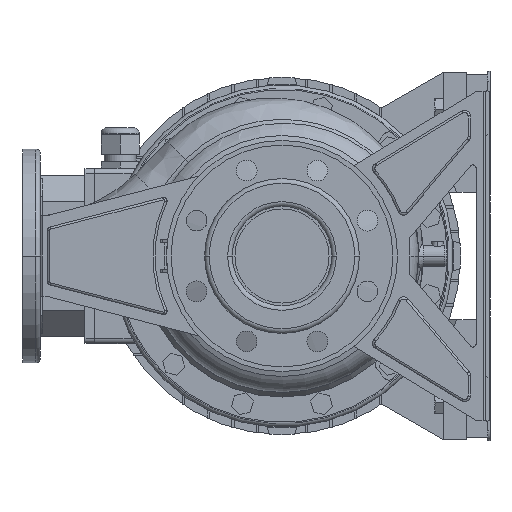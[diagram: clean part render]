
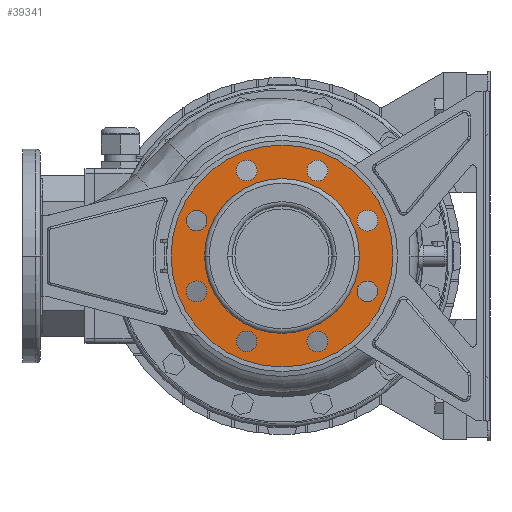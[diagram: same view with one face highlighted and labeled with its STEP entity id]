
A CAD part, left-side view. The second image highlights one B-rep face of the part: STEP entity #39341.
In plain terms, the highlighted planar face has unit normal (-1, 0, 0).
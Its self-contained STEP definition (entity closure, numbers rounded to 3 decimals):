
#38474=CARTESIAN_POINT('',(14.,0.,0.));
#38475=DIRECTION('',(-1.,0.,0.));
#38476=DIRECTION('',(0.,1.,0.));
#38477=AXIS2_PLACEMENT_3D('',#38474,#38475,#38476);
#38482=CARTESIAN_POINT('',(14.,0.,0.));
#38483=DIRECTION('',(1.,0.,0.));
#38484=DIRECTION('',(0.,1.,0.));
#38485=AXIS2_PLACEMENT_3D('',#38482,#38483,#38484);
#38490=CARTESIAN_POINT('',(14.,-73.91,30.615));
#38491=DIRECTION('',(1.,0.,0.));
#38492=DIRECTION('',(0.,1.,0.));
#38493=AXIS2_PLACEMENT_3D('',#38490,#38491,#38492);
#38498=CARTESIAN_POINT('',(14.,-73.91,30.615));
#38499=DIRECTION('',(1.,0.,0.));
#38500=DIRECTION('',(0.,-1.,0.));
#38501=AXIS2_PLACEMENT_3D('',#38498,#38499,#38500);
#38506=CARTESIAN_POINT('',(14.,-73.91,-30.615));
#38507=DIRECTION('',(1.,0.,0.));
#38508=DIRECTION('',(0.,0.707,0.707));
#38509=AXIS2_PLACEMENT_3D('',#38506,#38507,#38508);
#38514=CARTESIAN_POINT('',(14.,-73.91,-30.615));
#38515=DIRECTION('',(1.,0.,0.));
#38516=DIRECTION('',(0.,-0.707,-0.707));
#38517=AXIS2_PLACEMENT_3D('',#38514,#38515,#38516);
#38522=CARTESIAN_POINT('',(14.,-30.615,-73.91));
#38523=DIRECTION('',(1.,0.,0.));
#38524=DIRECTION('',(0.,0.,1.));
#38525=AXIS2_PLACEMENT_3D('',#38522,#38523,#38524);
#38530=CARTESIAN_POINT('',(14.,-30.615,-73.91));
#38531=DIRECTION('',(1.,0.,0.));
#38532=DIRECTION('',(0.,0.,-1.));
#38533=AXIS2_PLACEMENT_3D('',#38530,#38531,#38532);
#38538=CARTESIAN_POINT('',(14.,30.615,-73.91));
#38539=DIRECTION('',(1.,0.,0.));
#38540=DIRECTION('',(0.,-0.707,0.707));
#38541=AXIS2_PLACEMENT_3D('',#38538,#38539,#38540);
#38546=CARTESIAN_POINT('',(14.,30.615,-73.91));
#38547=DIRECTION('',(1.,0.,0.));
#38548=DIRECTION('',(0.,0.707,-0.707));
#38549=AXIS2_PLACEMENT_3D('',#38546,#38547,#38548);
#38554=CARTESIAN_POINT('',(14.,73.91,-30.615));
#38555=DIRECTION('',(1.,0.,0.));
#38556=DIRECTION('',(0.,-1.,0.));
#38557=AXIS2_PLACEMENT_3D('',#38554,#38555,#38556);
#38562=CARTESIAN_POINT('',(14.,73.91,-30.615));
#38563=DIRECTION('',(1.,0.,0.));
#38564=DIRECTION('',(0.,1.,0.));
#38565=AXIS2_PLACEMENT_3D('',#38562,#38563,#38564);
#38570=CARTESIAN_POINT('',(14.,73.91,30.615));
#38571=DIRECTION('',(1.,0.,0.));
#38572=DIRECTION('',(0.,-0.707,-0.707));
#38573=AXIS2_PLACEMENT_3D('',#38570,#38571,#38572);
#38578=CARTESIAN_POINT('',(14.,73.91,30.615));
#38579=DIRECTION('',(1.,0.,0.));
#38580=DIRECTION('',(0.,0.707,0.707));
#38581=AXIS2_PLACEMENT_3D('',#38578,#38579,#38580);
#38586=CARTESIAN_POINT('',(14.,30.615,73.91));
#38587=DIRECTION('',(1.,0.,0.));
#38588=DIRECTION('',(0.,0.,-1.));
#38589=AXIS2_PLACEMENT_3D('',#38586,#38587,#38588);
#38594=CARTESIAN_POINT('',(14.,30.615,73.91));
#38595=DIRECTION('',(1.,0.,0.));
#38596=DIRECTION('',(0.,0.,1.));
#38597=AXIS2_PLACEMENT_3D('',#38594,#38595,#38596);
#38602=CARTESIAN_POINT('',(14.,-30.615,73.91));
#38603=DIRECTION('',(1.,0.,0.));
#38604=DIRECTION('',(0.,0.707,-0.707));
#38605=AXIS2_PLACEMENT_3D('',#38602,#38603,#38604);
#38610=CARTESIAN_POINT('',(14.,-30.615,73.91));
#38611=DIRECTION('',(1.,0.,0.));
#38612=DIRECTION('',(0.,-0.707,0.707));
#38613=AXIS2_PLACEMENT_3D('',#38610,#38611,#38612);
#38618=CARTESIAN_POINT('',(14.,0.,0.));
#38619=DIRECTION('',(1.,0.,0.));
#38620=DIRECTION('',(0.,1.,0.));
#38621=AXIS2_PLACEMENT_3D('',#38618,#38619,#38620);
#38640=CARTESIAN_POINT('',(14.,0.,0.));
#38641=DIRECTION('',(-1.,0.,0.));
#38642=DIRECTION('',(0.,1.,0.));
#38643=AXIS2_PLACEMENT_3D('',#38640,#38641,#38642);
#38861=CARTESIAN_POINT('',(14.,96.,0.));
#38863=VERTEX_POINT('',#38861);
#38864=CARTESIAN_POINT('',(14.,67.,0.));
#38866=VERTEX_POINT('',#38864);
#38893=CARTESIAN_POINT('',(14.,-96.,0.));
#38895=VERTEX_POINT('',#38893);
#38896=CARTESIAN_POINT('',(14.,-67.,0.));
#38898=VERTEX_POINT('',#38896);
#38908=CARTESIAN_POINT('',(14.,-64.91,30.615));
#38909=CARTESIAN_POINT('',(14.,-82.91,30.615));
#38910=VERTEX_POINT('',#38908);
#38911=VERTEX_POINT('',#38909);
#38916=CARTESIAN_POINT('',(14.,-67.546,-24.251));
#38917=CARTESIAN_POINT('',(14.,-80.274,-36.979));
#38918=VERTEX_POINT('',#38916);
#38919=VERTEX_POINT('',#38917);
#38924=CARTESIAN_POINT('',(14.,-30.615,-64.91));
#38925=CARTESIAN_POINT('',(14.,-30.615,-82.91));
#38926=VERTEX_POINT('',#38924);
#38927=VERTEX_POINT('',#38925);
#38932=CARTESIAN_POINT('',(14.,24.251,-67.546));
#38933=CARTESIAN_POINT('',(14.,36.979,-80.274));
#38934=VERTEX_POINT('',#38932);
#38935=VERTEX_POINT('',#38933);
#38940=CARTESIAN_POINT('',(14.,64.91,-30.615));
#38941=CARTESIAN_POINT('',(14.,82.91,-30.615));
#38942=VERTEX_POINT('',#38940);
#38943=VERTEX_POINT('',#38941);
#38948=CARTESIAN_POINT('',(14.,67.546,24.251));
#38949=CARTESIAN_POINT('',(14.,80.274,36.979));
#38950=VERTEX_POINT('',#38948);
#38951=VERTEX_POINT('',#38949);
#38956=CARTESIAN_POINT('',(14.,30.615,64.91));
#38957=CARTESIAN_POINT('',(14.,30.615,82.91));
#38958=VERTEX_POINT('',#38956);
#38959=VERTEX_POINT('',#38957);
#38964=CARTESIAN_POINT('',(14.,-24.251,67.546));
#38965=CARTESIAN_POINT('',(14.,-36.979,80.274));
#38966=VERTEX_POINT('',#38964);
#38967=VERTEX_POINT('',#38965);
#39278=CARTESIAN_POINT('',(14.,0.,0.));
#39279=DIRECTION('',(1.,0.,0.));
#39280=DIRECTION('',(0.,-1.,0.));
#39281=AXIS2_PLACEMENT_3D('',#39278,#39279,#39280);
#39282=PLANE('',#39281);
#39283=ORIENTED_EDGE('',*,*,#39271,.F.);
#39284=ORIENTED_EDGE('',*,*,#39260,.T.);
#39285=EDGE_LOOP('',(#39283,#39284));
#39286=FACE_OUTER_BOUND('',#39285,.F.);
#39288=ORIENTED_EDGE('',*,*,#39287,.F.);
#39290=ORIENTED_EDGE('',*,*,#39289,.T.);
#39291=EDGE_LOOP('',(#39288,#39290));
#39292=FACE_BOUND('',#39291,.F.);
#39294=ORIENTED_EDGE('',*,*,#39293,.F.);
#39296=ORIENTED_EDGE('',*,*,#39295,.F.);
#39297=EDGE_LOOP('',(#39294,#39296));
#39298=FACE_BOUND('',#39297,.F.);
#39300=ORIENTED_EDGE('',*,*,#39299,.F.);
#39302=ORIENTED_EDGE('',*,*,#39301,.F.);
#39303=EDGE_LOOP('',(#39300,#39302));
#39304=FACE_BOUND('',#39303,.F.);
#39306=ORIENTED_EDGE('',*,*,#39305,.F.);
#39308=ORIENTED_EDGE('',*,*,#39307,.F.);
#39309=EDGE_LOOP('',(#39306,#39308));
#39310=FACE_BOUND('',#39309,.F.);
#39312=ORIENTED_EDGE('',*,*,#39311,.F.);
#39314=ORIENTED_EDGE('',*,*,#39313,.F.);
#39315=EDGE_LOOP('',(#39312,#39314));
#39316=FACE_BOUND('',#39315,.F.);
#39318=ORIENTED_EDGE('',*,*,#39317,.F.);
#39320=ORIENTED_EDGE('',*,*,#39319,.F.);
#39321=EDGE_LOOP('',(#39318,#39320));
#39322=FACE_BOUND('',#39321,.F.);
#39324=ORIENTED_EDGE('',*,*,#39323,.F.);
#39326=ORIENTED_EDGE('',*,*,#39325,.F.);
#39327=EDGE_LOOP('',(#39324,#39326));
#39328=FACE_BOUND('',#39327,.F.);
#39330=ORIENTED_EDGE('',*,*,#39329,.F.);
#39332=ORIENTED_EDGE('',*,*,#39331,.F.);
#39333=EDGE_LOOP('',(#39330,#39332));
#39334=FACE_BOUND('',#39333,.F.);
#39336=ORIENTED_EDGE('',*,*,#39335,.F.);
#39338=ORIENTED_EDGE('',*,*,#39337,.F.);
#39339=EDGE_LOOP('',(#39336,#39338));
#39340=FACE_BOUND('',#39339,.F.);
#38478=CIRCLE('',#38477,96.);
#38486=CIRCLE('',#38485,96.);
#38494=CIRCLE('',#38493,9.);
#38502=CIRCLE('',#38501,9.);
#38510=CIRCLE('',#38509,9.);
#38518=CIRCLE('',#38517,9.);
#38526=CIRCLE('',#38525,9.);
#38534=CIRCLE('',#38533,9.);
#38542=CIRCLE('',#38541,9.);
#38550=CIRCLE('',#38549,9.);
#38558=CIRCLE('',#38557,9.);
#38566=CIRCLE('',#38565,9.);
#38574=CIRCLE('',#38573,9.);
#38582=CIRCLE('',#38581,9.);
#38590=CIRCLE('',#38589,9.);
#38598=CIRCLE('',#38597,9.);
#38606=CIRCLE('',#38605,9.);
#38614=CIRCLE('',#38613,9.);
#38622=CIRCLE('',#38621,67.);
#38644=CIRCLE('',#38643,67.);
#39260=EDGE_CURVE('',#38863,#38895,#38486,.T.);
#39271=EDGE_CURVE('',#38863,#38895,#38478,.T.);
#39287=EDGE_CURVE('',#38866,#38898,#38622,.T.);
#39289=EDGE_CURVE('',#38866,#38898,#38644,.T.);
#39293=EDGE_CURVE('',#38910,#38911,#38494,.T.);
#39295=EDGE_CURVE('',#38911,#38910,#38502,.T.);
#39299=EDGE_CURVE('',#38918,#38919,#38510,.T.);
#39301=EDGE_CURVE('',#38919,#38918,#38518,.T.);
#39305=EDGE_CURVE('',#38926,#38927,#38526,.T.);
#39307=EDGE_CURVE('',#38927,#38926,#38534,.T.);
#39311=EDGE_CURVE('',#38934,#38935,#38542,.T.);
#39313=EDGE_CURVE('',#38935,#38934,#38550,.T.);
#39317=EDGE_CURVE('',#38942,#38943,#38558,.T.);
#39319=EDGE_CURVE('',#38943,#38942,#38566,.T.);
#39323=EDGE_CURVE('',#38950,#38951,#38574,.T.);
#39325=EDGE_CURVE('',#38951,#38950,#38582,.T.);
#39329=EDGE_CURVE('',#38958,#38959,#38590,.T.);
#39331=EDGE_CURVE('',#38959,#38958,#38598,.T.);
#39335=EDGE_CURVE('',#38966,#38967,#38606,.T.);
#39337=EDGE_CURVE('',#38967,#38966,#38614,.T.);
#39341=ADVANCED_FACE('',(#39286,#39292,#39298,#39304,#39310,#39316,#39322,
#39328,#39334,#39340),#39282,.F.);
